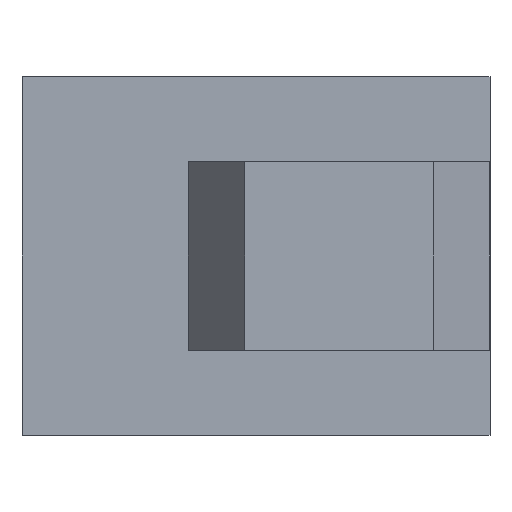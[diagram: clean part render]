
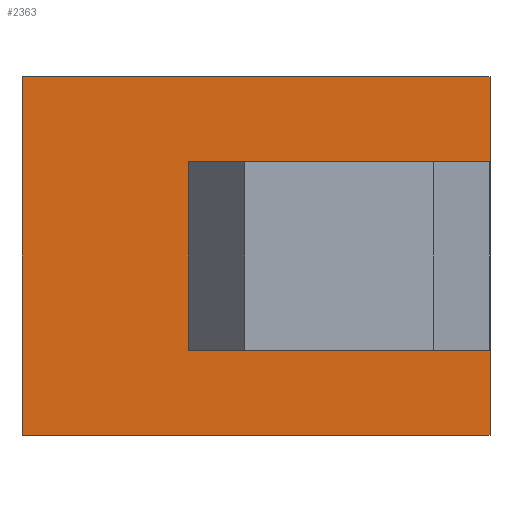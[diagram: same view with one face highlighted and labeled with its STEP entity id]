
A CAD part, front view. The second image highlights one B-rep face of the part: STEP entity #2363.
In plain terms, the highlighted planar face has unit normal (0, -1, 0).
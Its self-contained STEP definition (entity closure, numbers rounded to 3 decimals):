
#3 = PLANE ( 'NONE',  #810 ) ;
#11 = VECTOR ( 'NONE', #734, 1000. ) ;
#50 = EDGE_CURVE ( 'NONE', #1158, #1120, #1741, .T. ) ;
#94 = EDGE_CURVE ( 'NONE', #962, #1120, #117, .T. ) ;
#117 = LINE ( 'NONE', #1409, #11 ) ;
#191 = LINE ( 'NONE', #193, #715 ) ;
#193 = CARTESIAN_POINT ( 'NONE',  ( -5.4, 10., 5. ) ) ;
#232 = DIRECTION ( 'NONE',  ( 1., 0., 0. ) ) ;
#236 = EDGE_CURVE ( 'NONE', #482, #2232, #900, .T. ) ;
#259 = EDGE_CURVE ( 'NONE', #1561, #1158, #1709, .T. ) ;
#272 = CARTESIAN_POINT ( 'NONE',  ( 8., 10., 9.5 ) ) ;
#296 = EDGE_CURVE ( 'NONE', #735, #571, #1551, .T. ) ;
#346 = ORIENTED_EDGE ( 'NONE', *, *, #1503, .T. ) ;
#356 = CARTESIAN_POINT ( 'NONE',  ( 8., 10., -9.5 ) ) ;
#389 = DIRECTION ( 'NONE',  ( 0., 1., 0. ) ) ;
#448 = DIRECTION ( 'NONE',  ( 0., 0., 1. ) ) ;
#463 = FACE_OUTER_BOUND ( 'NONE', #2286, .T. ) ;
#482 = VERTEX_POINT ( 'NONE', #599 ) ;
#571 = VERTEX_POINT ( 'NONE', #984 ) ;
#599 = CARTESIAN_POINT ( 'NONE',  ( 5.2, 10., 5. ) ) ;
#657 = ORIENTED_EDGE ( 'NONE', *, *, #94, .T. ) ;
#677 = EDGE_CURVE ( 'NONE', #571, #482, #191, .T. ) ;
#695 = CARTESIAN_POINT ( 'NONE',  ( -16.8, 10., -9.5 ) ) ;
#715 = VECTOR ( 'NONE', #232, 1000. ) ;
#734 = DIRECTION ( 'NONE',  ( 0., 0., 1. ) ) ;
#735 = VERTEX_POINT ( 'NONE', #1342 ) ;
#810 = AXIS2_PLACEMENT_3D ( 'NONE', #1380, #389, #974 ) ;
#856 = DIRECTION ( 'NONE',  ( -1., 0., 0. ) ) ;
#897 = DIRECTION ( 'NONE',  ( 1., 0., 0. ) ) ;
#900 = LINE ( 'NONE', #2361, #1066 ) ;
#962 = VERTEX_POINT ( 'NONE', #356 ) ;
#974 = DIRECTION ( 'NONE',  ( 0., 0., 1. ) ) ;
#984 = CARTESIAN_POINT ( 'NONE',  ( -5.4, 10., 5. ) ) ;
#1001 = ORIENTED_EDGE ( 'NONE', *, *, #259, .F. ) ;
#1054 = EDGE_LOOP ( 'NONE', ( #1314, #2103, #2352, #1693 ) ) ;
#1057 = DIRECTION ( 'NONE',  ( 0., 0., 1. ) ) ;
#1064 = CARTESIAN_POINT ( 'NONE',  ( -5.4, 10., -5. ) ) ;
#1066 = VECTOR ( 'NONE', #2364, 1000. ) ;
#1098 = DIRECTION ( 'NONE',  ( 1., 0., 0. ) ) ;
#1109 = LINE ( 'NONE', #1064, #2160 ) ;
#1120 = VERTEX_POINT ( 'NONE', #272 ) ;
#1158 = VERTEX_POINT ( 'NONE', #1376 ) ;
#1175 = FACE_BOUND ( 'NONE', #1054, .T. ) ;
#1185 = ORIENTED_EDGE ( 'NONE', *, *, #50, .F. ) ;
#1192 = CARTESIAN_POINT ( 'NONE',  ( -16.8, 10., 9.5 ) ) ;
#1207 = VECTOR ( 'NONE', #448, 1000. ) ;
#1249 = VECTOR ( 'NONE', #897, 1000. ) ;
#1266 = CARTESIAN_POINT ( 'NONE',  ( -5.4, 10., -5. ) ) ;
#1314 = ORIENTED_EDGE ( 'NONE', *, *, #1738, .T. ) ;
#1342 = CARTESIAN_POINT ( 'NONE',  ( -5.4, 10., -5. ) ) ;
#1376 = CARTESIAN_POINT ( 'NONE',  ( -16.8, 10., 9.5 ) ) ;
#1380 = CARTESIAN_POINT ( 'NONE',  ( 0., 10., 0. ) ) ;
#1409 = CARTESIAN_POINT ( 'NONE',  ( 8., 10., -9.5 ) ) ;
#1471 = CARTESIAN_POINT ( 'NONE',  ( 5.2, 10., -5. ) ) ;
#1473 = VECTOR ( 'NONE', #1098, 1000. ) ;
#1503 = EDGE_CURVE ( 'NONE', #1561, #962, #2197, .T. ) ;
#1551 = LINE ( 'NONE', #1266, #1207 ) ;
#1561 = VERTEX_POINT ( 'NONE', #1683 ) ;
#1683 = CARTESIAN_POINT ( 'NONE',  ( -16.8, 10., -9.5 ) ) ;
#1693 = ORIENTED_EDGE ( 'NONE', *, *, #236, .T. ) ;
#1709 = LINE ( 'NONE', #2333, #2124 ) ;
#1738 = EDGE_CURVE ( 'NONE', #2232, #735, #1109, .T. ) ;
#1741 = LINE ( 'NONE', #1192, #1473 ) ;
#2103 = ORIENTED_EDGE ( 'NONE', *, *, #296, .T. ) ;
#2124 = VECTOR ( 'NONE', #1057, 1000. ) ;
#2160 = VECTOR ( 'NONE', #856, 1000. ) ;
#2197 = LINE ( 'NONE', #695, #1249 ) ;
#2232 = VERTEX_POINT ( 'NONE', #1471 ) ;
#2286 = EDGE_LOOP ( 'NONE', ( #1001, #346, #657, #1185 ) ) ;
#2333 = CARTESIAN_POINT ( 'NONE',  ( -16.8, 10., -9.5 ) ) ;
#2352 = ORIENTED_EDGE ( 'NONE', *, *, #677, .T. ) ;
#2361 = CARTESIAN_POINT ( 'NONE',  ( 5.2, 10., -5. ) ) ;
#2363 = ADVANCED_FACE ( 'NONE', ( #463, #1175 ), #3, .F. ) ;
#2364 = DIRECTION ( 'NONE',  ( 0., 0., -1. ) ) ;
